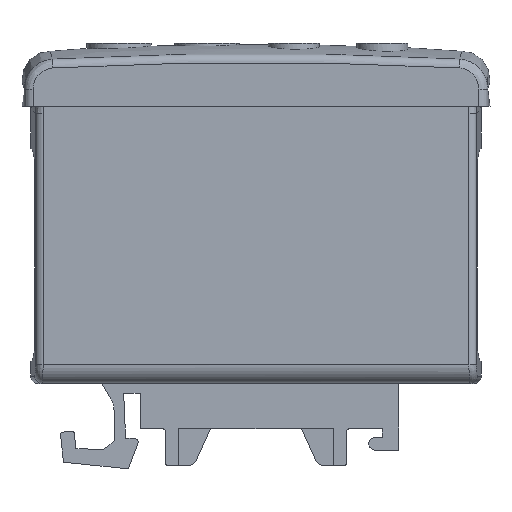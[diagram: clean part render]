
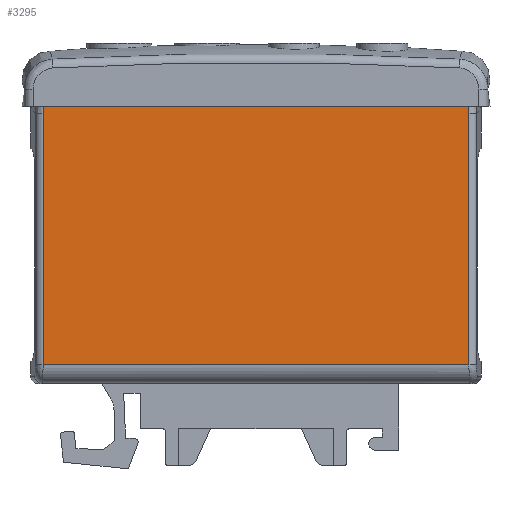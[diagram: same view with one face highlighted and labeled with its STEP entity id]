
A CAD part, front view. The second image highlights one B-rep face of the part: STEP entity #3295.
In plain terms, the highlighted planar face has unit normal (0, -1, 0).
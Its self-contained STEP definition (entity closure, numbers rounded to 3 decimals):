
#248=B_SPLINE_CURVE_WITH_KNOTS('',3,(#5593,#5594,#5595,#5596),
 .UNSPECIFIED.,.F.,.F.,(4,4),(0.01,0.011),
 .UNSPECIFIED.);
#252=B_SPLINE_CURVE_WITH_KNOTS('',3,(#5700,#5701,#5702,#5703),
 .UNSPECIFIED.,.F.,.F.,(4,4),(0.,0.001),.UNSPECIFIED.);
#1028=ORIENTED_EDGE('',*,*,#1192,.F.);
#1029=ORIENTED_EDGE('',*,*,#1543,.T.);
#1030=ORIENTED_EDGE('',*,*,#1540,.T.);
#1031=ORIENTED_EDGE('',*,*,#1563,.F.);
#1032=ORIENTED_EDGE('',*,*,#1566,.T.);
#1033=ORIENTED_EDGE('',*,*,#1567,.T.);
#1192=EDGE_CURVE('',#1648,#1649,#1946,.T.);
#1540=EDGE_CURVE('',#1888,#1887,#2190,.T.);
#1543=EDGE_CURVE('',#1648,#1888,#248,.T.);
#1563=EDGE_CURVE('',#1897,#1887,#2202,.T.);
#1566=EDGE_CURVE('',#1897,#1899,#2204,.F.);
#1567=EDGE_CURVE('',#1899,#1649,#252,.T.);
#1648=VERTEX_POINT('',#4612);
#1649=VERTEX_POINT('',#4614);
#1887=VERTEX_POINT('',#5571);
#1888=VERTEX_POINT('',#5575);
#1897=VERTEX_POINT('',#5693);
#1899=VERTEX_POINT('',#5699);
#1946=LINE('',#4613,#2242);
#2190=LINE('',#5574,#2486);
#2202=LINE('',#5692,#2498);
#2204=LINE('',#5698,#2500);
#2242=VECTOR('',#3668,1000.);
#2486=VECTOR('',#4356,1000.);
#2498=VECTOR('',#4396,1000.);
#2500=VECTOR('',#4402,1000.);
#2729=EDGE_LOOP('',(#1028,#1029,#1030,#1031,#1032,#1033));
#2972=FACE_BOUND('',#2729,.T.);
#3117=PLANE('',#3586);
#3295=ADVANCED_FACE('',(#2972),#3117,.T.);
#3586=AXIS2_PLACEMENT_3D('',#5697,#4400,#4401);
#3668=DIRECTION('',(1.,0.,0.));
#4356=DIRECTION('',(0.,0.,-1.));
#4396=DIRECTION('',(-1.,0.,0.));
#4400=DIRECTION('',(0.,-1.,0.));
#4401=DIRECTION('',(0.,0.,1.));
#4402=DIRECTION('',(0.,0.,-1.));
#4612=CARTESIAN_POINT('',(-28.342,-11.6,14.5));
#4613=CARTESIAN_POINT('',(-39.318,-11.6,14.5));
#4614=CARTESIAN_POINT('',(28.342,-11.6,14.5));
#5571=CARTESIAN_POINT('',(-28.409,-11.6,-20.));
#5574=CARTESIAN_POINT('',(-28.409,-11.6,0.));
#5575=CARTESIAN_POINT('',(-28.409,-11.6,13.53));
#5593=CARTESIAN_POINT('',(-28.342,-11.6,14.5));
#5594=CARTESIAN_POINT('',(-28.386,-11.6,14.18));
#5595=CARTESIAN_POINT('',(-28.409,-11.6,13.857));
#5596=CARTESIAN_POINT('',(-28.409,-11.6,13.53));
#5692=CARTESIAN_POINT('',(-29.35,-11.6,-20.));
#5693=CARTESIAN_POINT('',(28.409,-11.6,-20.));
#5697=CARTESIAN_POINT('',(0.,-11.6,0.));
#5698=CARTESIAN_POINT('',(28.409,-11.6,0.));
#5699=CARTESIAN_POINT('',(28.409,-11.6,13.53));
#5700=CARTESIAN_POINT('',(28.409,-11.6,13.53));
#5701=CARTESIAN_POINT('',(28.409,-11.6,13.856));
#5702=CARTESIAN_POINT('',(28.386,-11.6,14.179));
#5703=CARTESIAN_POINT('',(28.342,-11.6,14.5));
